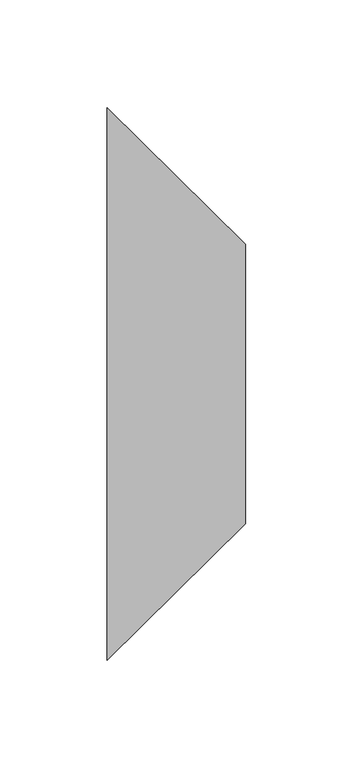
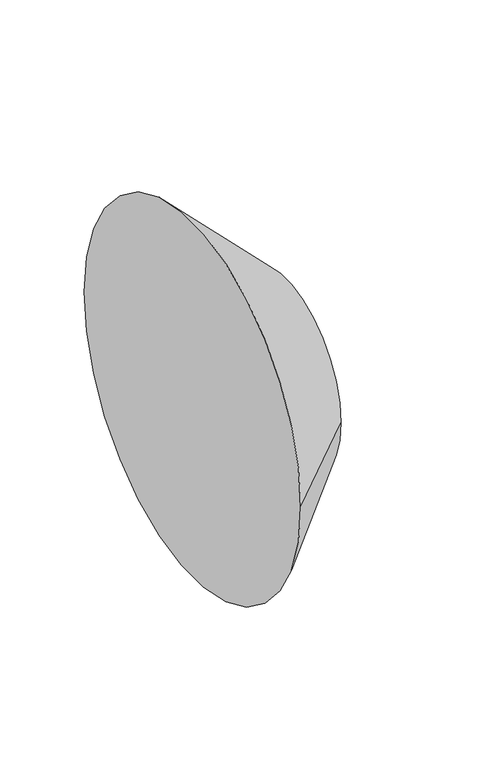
"""IFC4 building model written with IfcOpenShell, lengths in millimetres: pipe fitting geometry, M_Transición - Genérica : Estándar."""

from ifc_helpers import new_model, si_unit, frame, origin, place, context, project, spatial, polyline, circle_curve, source, transform, mapped, element, save
from ifc_brep_helpers import plane_surface, revolved_surface, advanced_brep


def pipe_fitting_2d7301f5(model_context):
    return source(origin(), model_context, "Body", "AdvancedBrep", [
        advanced_brep(
        [(64.29375, -65.0875, 0.0), (64.29375, 65.0875, 0.0), (0.0, -128.5875, 0.0), (0.0, 128.5875, 0.0)],
        [
            (0, 1, circle_curve(frame((64.29375, 0.0, 0.0), z_axis=(1.0, 0.0, 0.0), x_axis=(0.0, -1.0, 0.0)), 65.0875)),
            (1, 0, circle_curve(frame((64.29375, 0.0, 0.0), z_axis=(1.0, 0.0, 0.0), x_axis=(0.0, 1.0, 0.0)), 65.0875)),
            (2, 3, circle_curve(frame((0.0, 0.0, 0.0), z_axis=(-1.0, 0.0, 0.0), x_axis=(0.0, 1.0, 0.0)), 128.5875)),
            (3, 2, circle_curve(frame((0.0, 0.0, 0.0), z_axis=(-1.0, 0.0, 0.0), x_axis=(0.0, -1.0, 0.0)), 128.5875)),
            (3, 1),
            (0, 2),
        ],
        [
            plane_surface(frame((64.29375, 0.0, 0.0), z_axis=(1.0, 0.0, 0.0), x_axis=(0.0, 0.0, -1.0))),
            plane_surface(frame((0.0, 0.0, 0.0), z_axis=(-1.0, 0.0, 0.0), x_axis=(0.0, 0.0, -1.0))),
            revolved_surface(polyline([(64.29375, -65.08750002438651, 0.0), (0.0, -128.5875, 0.0)]), (130.1948438, 0.0, 0.0), (-1.0, 0.0, 0.0)),
            revolved_surface(polyline([(64.29375, 65.08750002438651, 0.0), (0.0, 128.5875, 0.0)]), (130.1948438, 0.0, 0.0), (-1.0, 0.0, 0.0)),
        ],
        [
            (0, [[1, 2]]),
            (1, [[3, 4]]),
            (2, [[-4, 5, -1, 6]]),
            (3, [[-3, -6, -2, -5]]),
        ],
    ),
    ])


if __name__ == "__main__":
    model = new_model("IFC4")
    model_context = context("Model", 3, world=origin())
    ifc_project = project(units=[si_unit("LENGTHUNIT", "METRE", prefix="MILLI")], contexts=[model_context])
    site = spatial("IfcSite", under=ifc_project)
    building = spatial("IfcBuilding", under=site)
    placement = place(None, origin())
    pipe_fitting_shape = pipe_fitting_2d7301f5(model_context)
    element("IfcPipeFitting", 1, ObjectType="M_Transición - Genérica : Estándar", at=placement, inside=building, context=model_context, shape_type="MappedRepresentation", body=[
        mapped(pipe_fitting_shape, transform((0.0, 0.0, 0.0), x_axis=(1.0, 0.0, 0.0), y_axis=(0.0, 1.0, 0.0), z_axis=(0.0, 0.0, 1.0))),
    ])
    save(model, "model.ifc")
